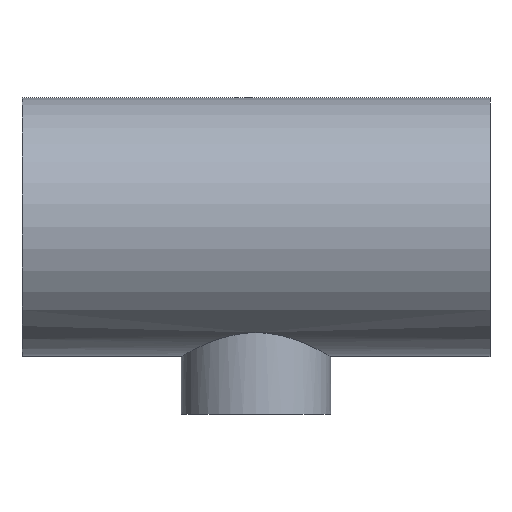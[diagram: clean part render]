
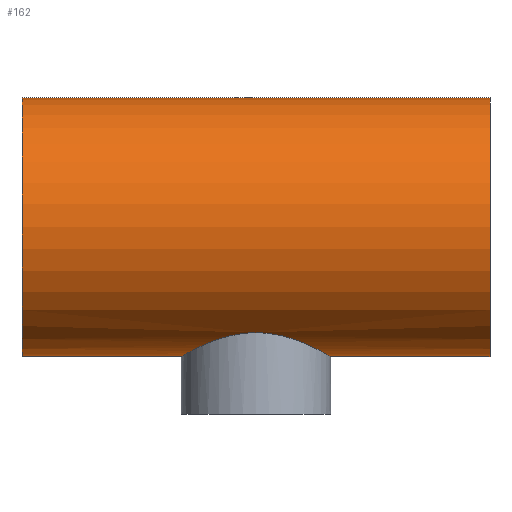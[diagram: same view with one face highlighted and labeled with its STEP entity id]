
A CAD part, top view. The second image highlights one B-rep face of the part: STEP entity #162.
In plain terms, the highlighted cylindrical face has radius 65 mm (diameter 130 mm), a full revolution.
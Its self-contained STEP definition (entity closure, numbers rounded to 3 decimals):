
#16=B_SPLINE_CURVE_WITH_KNOTS('',3,(#344,#345,#346,#347,#348,#349,#350,
#351,#352,#353,#354,#355,#356,#357,#358,#359,#360,#361,#362,#363,#364,#365,
#366,#367,#368,#369,#370,#371,#372,#373,#374,#375,#376,#377,#378,#379,#380,
#381,#382,#383,#384,#385,#386,#387,#388,#389,#390,#391,#392,#393,#394,#395,
#396,#397,#398,#399,#400,#401,#402,#403,#404,#405,#406,#407,#408,#409),
 .UNSPECIFIED.,.T.,.F.,(4,2,2,2,2,2,2,2,2,2,2,2,2,2,2,2,2,2,2,2,2,2,2,2,
2,2,2,2,2,2,2,2,4),(0.,0.729,1.457,2.186,
2.914,3.639,4.363,5.088,5.813,
6.537,7.262,7.986,8.711,9.44,
10.168,10.897,11.625,12.354,13.082,
13.811,14.539,15.264,15.988,16.713,
17.438,18.162,18.887,19.612,20.336,
21.065,21.793,22.522,23.25),
 .UNSPECIFIED.);
#32=FACE_BOUND('',#69,.T.);
#33=FACE_BOUND('',#70,.T.);
#46=FACE_OUTER_BOUND('',#68,.T.);
#68=EDGE_LOOP('',(#136));
#69=EDGE_LOOP('',(#137));
#70=EDGE_LOOP('',(#138));
#88=CIRCLE('',#187,65.);
#89=CIRCLE('',#188,65.);
#101=VERTEX_POINT('',#341);
#102=VERTEX_POINT('',#343);
#103=VERTEX_POINT('',#410);
#115=EDGE_CURVE('',#101,#101,#88,.T.);
#116=EDGE_CURVE('',#102,#102,#16,.T.);
#117=EDGE_CURVE('',#103,#103,#89,.T.);
#136=ORIENTED_EDGE('',*,*,#115,.F.);
#137=ORIENTED_EDGE('',*,*,#116,.T.);
#138=ORIENTED_EDGE('',*,*,#117,.F.);
#152=CYLINDRICAL_SURFACE('',#186,65.);
#162=ADVANCED_FACE('',(#46,#32,#33),#152,.T.);
#186=AXIS2_PLACEMENT_3D('',#340,#230,#231);
#187=AXIS2_PLACEMENT_3D('',#342,#232,#233);
#188=AXIS2_PLACEMENT_3D('',#411,#234,#235);
#230=DIRECTION('center_axis',(1.,0.,0.));
#231=DIRECTION('ref_axis',(0.,-1.,0.));
#232=DIRECTION('center_axis',(-1.,0.,0.));
#233=DIRECTION('ref_axis',(0.,-1.,0.));
#234=DIRECTION('center_axis',(1.,0.,0.));
#235=DIRECTION('ref_axis',(0.,-1.,0.));
#340=CARTESIAN_POINT('Origin',(0.,0.,0.));
#341=CARTESIAN_POINT('',(-117.5,65.,0.));
#342=CARTESIAN_POINT('Origin',(-117.5,0.,0.));
#343=CARTESIAN_POINT('',(0.,-53.092,37.5));
#344=CARTESIAN_POINT('Ctrl Pts',(0.,-53.092,
37.5));
#345=CARTESIAN_POINT('Ctrl Pts',(2.428,-53.092,37.5));
#346=CARTESIAN_POINT('Ctrl Pts',(4.912,-53.264,37.261));
#347=CARTESIAN_POINT('Ctrl Pts',(9.807,-53.936,36.281));
#348=CARTESIAN_POINT('Ctrl Pts',(12.217,-54.434,35.541));
#349=CARTESIAN_POINT('Ctrl Pts',(16.81,-55.645,33.614));
#350=CARTESIAN_POINT('Ctrl Pts',(18.996,-56.357,32.424));
#351=CARTESIAN_POINT('Ctrl Pts',(23.031,-57.842,29.694));
#352=CARTESIAN_POINT('Ctrl Pts',(24.879,-58.614,28.154));
#353=CARTESIAN_POINT('Ctrl Pts',(28.145,-60.073,24.888));
#354=CARTESIAN_POINT('Ctrl Pts',(29.684,-60.815,23.044));
#355=CARTESIAN_POINT('Ctrl Pts',(32.417,-62.195,19.008));
#356=CARTESIAN_POINT('Ctrl Pts',(33.611,-62.832,16.816));
#357=CARTESIAN_POINT('Ctrl Pts',(35.544,-63.886,12.21));
#358=CARTESIAN_POINT('Ctrl Pts',(36.285,-64.305,9.793));
#359=CARTESIAN_POINT('Ctrl Pts',(37.263,-64.862,4.895));
#360=CARTESIAN_POINT('Ctrl Pts',(37.5,-65.,2.415));
#361=CARTESIAN_POINT('Ctrl Pts',(37.5,-65.,-2.415));
#362=CARTESIAN_POINT('Ctrl Pts',(37.263,-64.862,-4.895));
#363=CARTESIAN_POINT('Ctrl Pts',(36.285,-64.305,-9.793));
#364=CARTESIAN_POINT('Ctrl Pts',(35.544,-63.886,-12.21));
#365=CARTESIAN_POINT('Ctrl Pts',(33.611,-62.832,-16.816));
#366=CARTESIAN_POINT('Ctrl Pts',(32.417,-62.195,-19.008));
#367=CARTESIAN_POINT('Ctrl Pts',(29.684,-60.815,-23.044));
#368=CARTESIAN_POINT('Ctrl Pts',(28.145,-60.073,-24.888));
#369=CARTESIAN_POINT('Ctrl Pts',(24.879,-58.614,-28.154));
#370=CARTESIAN_POINT('Ctrl Pts',(23.031,-57.842,-29.694));
#371=CARTESIAN_POINT('Ctrl Pts',(18.996,-56.357,-32.424));
#372=CARTESIAN_POINT('Ctrl Pts',(16.81,-55.645,-33.614));
#373=CARTESIAN_POINT('Ctrl Pts',(12.217,-54.434,-35.541));
#374=CARTESIAN_POINT('Ctrl Pts',(9.807,-53.936,-36.281));
#375=CARTESIAN_POINT('Ctrl Pts',(4.912,-53.264,-37.261));
#376=CARTESIAN_POINT('Ctrl Pts',(2.428,-53.092,-37.5));
#377=CARTESIAN_POINT('Ctrl Pts',(-2.428,-53.092,-37.5));
#378=CARTESIAN_POINT('Ctrl Pts',(-4.912,-53.264,-37.261));
#379=CARTESIAN_POINT('Ctrl Pts',(-9.807,-53.936,-36.281));
#380=CARTESIAN_POINT('Ctrl Pts',(-12.217,-54.434,-35.541));
#381=CARTESIAN_POINT('Ctrl Pts',(-16.81,-55.645,-33.614));
#382=CARTESIAN_POINT('Ctrl Pts',(-18.996,-56.357,-32.424));
#383=CARTESIAN_POINT('Ctrl Pts',(-23.031,-57.842,-29.694));
#384=CARTESIAN_POINT('Ctrl Pts',(-24.879,-58.614,-28.154));
#385=CARTESIAN_POINT('Ctrl Pts',(-28.145,-60.073,-24.888));
#386=CARTESIAN_POINT('Ctrl Pts',(-29.684,-60.815,-23.044));
#387=CARTESIAN_POINT('Ctrl Pts',(-32.417,-62.195,-19.008));
#388=CARTESIAN_POINT('Ctrl Pts',(-33.611,-62.832,-16.816));
#389=CARTESIAN_POINT('Ctrl Pts',(-35.544,-63.886,-12.21));
#390=CARTESIAN_POINT('Ctrl Pts',(-36.285,-64.305,-9.793));
#391=CARTESIAN_POINT('Ctrl Pts',(-37.263,-64.862,-4.895));
#392=CARTESIAN_POINT('Ctrl Pts',(-37.5,-65.,-2.415));
#393=CARTESIAN_POINT('Ctrl Pts',(-37.5,-65.,2.415));
#394=CARTESIAN_POINT('Ctrl Pts',(-37.263,-64.862,4.895));
#395=CARTESIAN_POINT('Ctrl Pts',(-36.285,-64.305,9.793));
#396=CARTESIAN_POINT('Ctrl Pts',(-35.544,-63.886,12.21));
#397=CARTESIAN_POINT('Ctrl Pts',(-33.611,-62.832,16.816));
#398=CARTESIAN_POINT('Ctrl Pts',(-32.417,-62.195,19.008));
#399=CARTESIAN_POINT('Ctrl Pts',(-29.684,-60.815,23.044));
#400=CARTESIAN_POINT('Ctrl Pts',(-28.145,-60.073,24.888));
#401=CARTESIAN_POINT('Ctrl Pts',(-24.879,-58.614,28.154));
#402=CARTESIAN_POINT('Ctrl Pts',(-23.031,-57.842,29.694));
#403=CARTESIAN_POINT('Ctrl Pts',(-18.996,-56.357,32.424));
#404=CARTESIAN_POINT('Ctrl Pts',(-16.81,-55.645,33.614));
#405=CARTESIAN_POINT('Ctrl Pts',(-12.217,-54.434,35.541));
#406=CARTESIAN_POINT('Ctrl Pts',(-9.807,-53.936,36.281));
#407=CARTESIAN_POINT('Ctrl Pts',(-4.912,-53.264,37.261));
#408=CARTESIAN_POINT('Ctrl Pts',(-2.428,-53.092,37.5));
#409=CARTESIAN_POINT('Ctrl Pts',(0.,-53.092,
37.5));
#410=CARTESIAN_POINT('',(117.5,65.,0.));
#411=CARTESIAN_POINT('Origin',(117.5,0.,0.));
